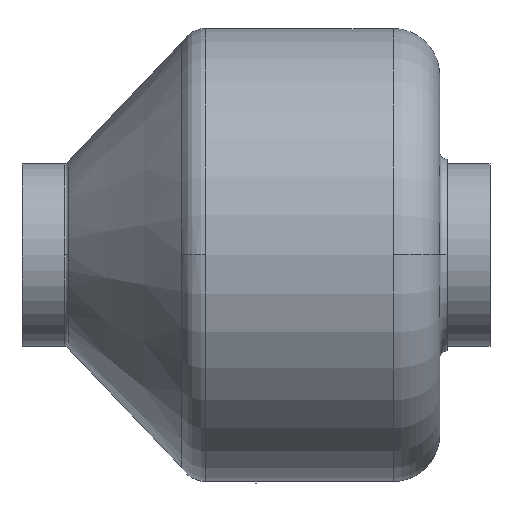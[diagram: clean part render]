
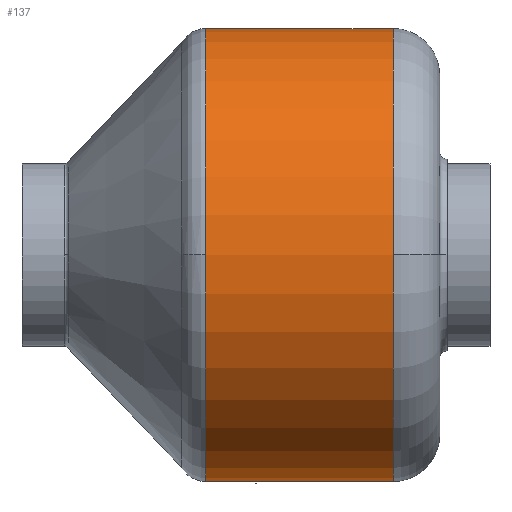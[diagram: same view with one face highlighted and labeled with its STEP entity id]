
A CAD part, top view. The second image highlights one B-rep face of the part: STEP entity #137.
In plain terms, the highlighted cylindrical face has radius 121.5 mm (diameter 243 mm), a partial arc.
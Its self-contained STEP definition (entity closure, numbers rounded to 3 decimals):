
#137=ADVANCED_FACE('',(#371),#372,.T.);
#371=FACE_OUTER_BOUND('',#737,.T.);
#372=CYLINDRICAL_SURFACE('',#738,121.5);
#737=EDGE_LOOP('',(#1113,#1114,#1115,#1116,#1117,#1118,#1119,#1120));
#738=AXIS2_PLACEMENT_3D('',#1121,#1122,#1123);
#1113=ORIENTED_EDGE('',*,*,#2128,.F.);
#1114=ORIENTED_EDGE('',*,*,#2129,.T.);
#1115=ORIENTED_EDGE('',*,*,#2130,.T.);
#1116=ORIENTED_EDGE('',*,*,#2131,.F.);
#1117=ORIENTED_EDGE('',*,*,#2132,.T.);
#1118=ORIENTED_EDGE('',*,*,#2133,.F.);
#1119=ORIENTED_EDGE('',*,*,#2134,.F.);
#1120=ORIENTED_EDGE('',*,*,#2124,.F.);
#1121=CARTESIAN_POINT('',(23.3,0.0,0.0));
#1122=DIRECTION('',(-1.0,0.0,0.0));
#1123=DIRECTION('',(0.0,1.0,0.0));
#2124=EDGE_CURVE('',#2538,#2540,#2541,.T.);
#2128=EDGE_CURVE('',#2546,#2538,#2547,.T.);
#2129=EDGE_CURVE('',#2546,#2548,#2549,.T.);
#2130=EDGE_CURVE('',#2548,#2550,#2551,.T.);
#2131=EDGE_CURVE('',#2552,#2550,#2553,.T.);
#2132=EDGE_CURVE('',#2552,#2554,#2555,.T.);
#2133=EDGE_CURVE('',#2556,#2554,#2557,.T.);
#2134=EDGE_CURVE('',#2540,#2556,#2558,.T.);
#2538=VERTEX_POINT('',#3144);
#2540=VERTEX_POINT('',#3146);
#2541=CIRCLE('',#3147,121.5);
#2546=VERTEX_POINT('',#3152);
#2547=LINE('',#3153,#3154);
#2548=VERTEX_POINT('',#3155);
#2549=CIRCLE('',#3156,121.5);
#2550=VERTEX_POINT('',#3157);
#2551=CIRCLE('',#3158,121.5);
#2552=VERTEX_POINT('',#3159);
#2553=LINE('',#3160,#3161);
#2554=VERTEX_POINT('',#3162);
#2555=B_SPLINE_CURVE_WITH_KNOTS('',3,(#3163,#3164,#3165,#3166,#3167,#3168,#3169,#3170,#3171,#3172,#3173,#3174,#3175,#3176,#3177,#3178,#3179,#3180,#3181,#3182,#3183,#3184,#3185,#3186,#3187,#3188,#3189,#3190,#3191,#3192,#3193,#3194,#3195,#3196),.UNSPECIFIED.,.F.,.F.,(4,2,2,2,2,2,2,2,2,2,2,2,2,2,2,2,4),(0.001,0.002,0.002,0.002,0.003,0.003,0.003,0.003,0.003,0.003,0.003,0.003,0.003,0.004,0.004,0.004,0.004),.UNSPECIFIED.);
#2556=VERTEX_POINT('',#3197);
#2557=LINE('',#3198,#3199);
#2558=CIRCLE('',#3200,121.5);
#3144=CARTESIAN_POINT('',(73.5,121.5,0.0));
#3146=CARTESIAN_POINT('',(73.5,0.,121.5));
#3147=AXIS2_PLACEMENT_3D('',#4130,#4131,#4132);
#3152=CARTESIAN_POINT('',(-26.9,121.5,0.0));
#3153=CARTESIAN_POINT('',(23.3,121.5,0.));
#3154=VECTOR('',#4139,1.0);
#3155=CARTESIAN_POINT('',(-26.9,0.,121.5));
#3156=AXIS2_PLACEMENT_3D('',#4140,#4141,#4142);
#3157=CARTESIAN_POINT('',(-26.9,-121.5,0.));
#3158=AXIS2_PLACEMENT_3D('',#4143,#4144,#4145);
#3159=CARTESIAN_POINT('',(-0.001,-121.5,0.));
#3160=CARTESIAN_POINT('',(23.3,-121.5,0.));
#3161=VECTOR('',#4146,1.0);
#3162=CARTESIAN_POINT('',(0.001,-121.5,0.));
#3163=CARTESIAN_POINT('',(-0.001,-121.5,0.));
#3164=CARTESIAN_POINT('',(-0.001,-121.5,0.));
#3165=CARTESIAN_POINT('',(-0.001,-121.5,0.));
#3166=CARTESIAN_POINT('',(-0.001,-121.5,0.));
#3167=CARTESIAN_POINT('',(-0.001,-121.5,0.001));
#3168=CARTESIAN_POINT('',(-0.001,-121.5,0.001));
#3169=CARTESIAN_POINT('',(-0.001,-121.5,0.001));
#3170=CARTESIAN_POINT('',(-0.001,-121.5,0.001));
#3171=CARTESIAN_POINT('',(0.,-121.5,0.001));
#3172=CARTESIAN_POINT('',(0.,-121.5,0.001));
#3173=CARTESIAN_POINT('',(0.,-121.5,0.001));
#3174=CARTESIAN_POINT('',(0.,-121.5,0.001));
#3175=CARTESIAN_POINT('',(0.,-121.5,0.001));
#3176=CARTESIAN_POINT('',(0.,-121.5,0.001));
#3177=CARTESIAN_POINT('',(0.,-121.5,0.001));
#3178=CARTESIAN_POINT('',(0.,-121.5,0.001));
#3179=CARTESIAN_POINT('',(0.,-121.5,0.001));
#3180=CARTESIAN_POINT('',(0.,-121.5,0.001));
#3181=CARTESIAN_POINT('',(0.,-121.5,0.001));
#3182=CARTESIAN_POINT('',(0.,-121.5,0.001));
#3183=CARTESIAN_POINT('',(0.,-121.5,0.001));
#3184=CARTESIAN_POINT('',(0.,-121.5,0.001));
#3185=CARTESIAN_POINT('',(0.,-121.5,0.001));
#3186=CARTESIAN_POINT('',(0.,-121.5,0.001));
#3187=CARTESIAN_POINT('',(0.,-121.5,0.001));
#3188=CARTESIAN_POINT('',(0.,-121.5,0.001));
#3189=CARTESIAN_POINT('',(0.001,-121.5,0.001));
#3190=CARTESIAN_POINT('',(0.001,-121.5,0.001));
#3191=CARTESIAN_POINT('',(0.001,-121.5,0.001));
#3192=CARTESIAN_POINT('',(0.001,-121.5,0.001));
#3193=CARTESIAN_POINT('',(0.001,-121.5,0.));
#3194=CARTESIAN_POINT('',(0.001,-121.5,0.));
#3195=CARTESIAN_POINT('',(0.001,-121.5,0.));
#3196=CARTESIAN_POINT('',(0.001,-121.5,0.));
#3197=CARTESIAN_POINT('',(73.5,-121.5,0.));
#3198=CARTESIAN_POINT('',(23.3,-121.5,0.));
#3199=VECTOR('',#4147,1.0);
#3200=AXIS2_PLACEMENT_3D('',#4148,#4149,#4150);
#4130=CARTESIAN_POINT('',(73.5,0.0,0.0));
#4131=DIRECTION('',(1.0,0.0,0.0));
#4132=DIRECTION('',(0.0,1.0,0.0));
#4139=DIRECTION('',(1.0,0.0,0.0));
#4140=CARTESIAN_POINT('',(-26.9,0.0,0.0));
#4141=DIRECTION('',(1.0,0.0,0.0));
#4142=DIRECTION('',(0.0,1.0,0.0));
#4143=CARTESIAN_POINT('',(-26.9,0.0,0.0));
#4144=DIRECTION('',(1.0,0.0,0.0));
#4145=DIRECTION('',(0.0,1.0,0.0));
#4146=DIRECTION('',(-1.0,-0.0,-0.0));
#4147=DIRECTION('',(-1.0,-0.0,-0.0));
#4148=CARTESIAN_POINT('',(73.5,0.0,0.0));
#4149=DIRECTION('',(1.0,0.0,0.0));
#4150=DIRECTION('',(0.0,1.0,0.0));
